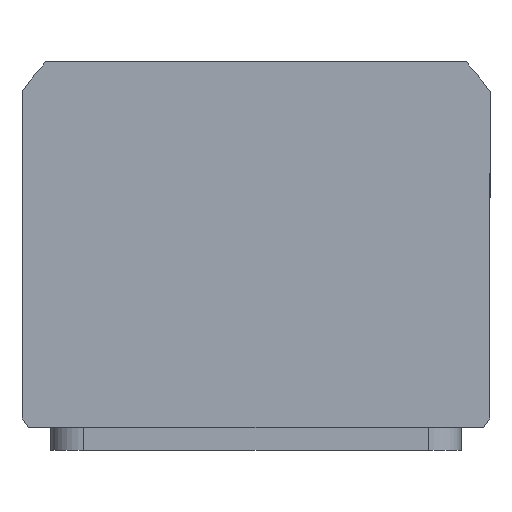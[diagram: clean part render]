
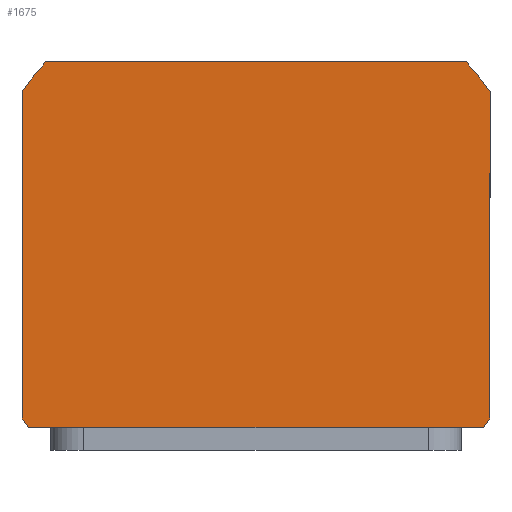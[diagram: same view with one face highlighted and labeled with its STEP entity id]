
A CAD part, top view. The second image highlights one B-rep face of the part: STEP entity #1675.
In plain terms, the highlighted planar face has unit normal (0, 0, 1) as drawn and (0, 0, -1) by its records, which use the part's own axes.
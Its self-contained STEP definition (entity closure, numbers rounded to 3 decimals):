
#240 = CARTESIAN_POINT ( 'NONE',  ( 0., 2.508, 0. ) ) ;
#357 = EDGE_CURVE ( 'NONE', #16587, #13092, #20557, .T. ) ;
#1675 = ADVANCED_FACE ( 'NONE', ( #14427 ), #10369, .F. ) ;
#2035 = DIRECTION ( 'NONE',  ( 1., 0., 0. ) ) ;
#2058 = AXIS2_PLACEMENT_3D ( 'NONE', #2424, #14806, #4223 ) ;
#2424 = CARTESIAN_POINT ( 'NONE',  ( 0., 2.508, 0. ) ) ;
#2741 = DIRECTION ( 'NONE',  ( 1., 0., 0. ) ) ;
#3754 = ORIENTED_EDGE ( 'NONE', *, *, #11947, .F. ) ;
#4040 = CARTESIAN_POINT ( 'NONE',  ( 57., 44.5, 0. ) ) ;
#4154 = LINE ( 'NONE', #20777, #14664 ) ;
#4223 = DIRECTION ( 'NONE',  ( 1., 0., 0. ) ) ;
#5056 = DIRECTION ( 'NONE',  ( -1., 0., 0. ) ) ;
#5437 = AXIS2_PLACEMENT_3D ( 'NONE', #8135, #20518, #9915 ) ;
#5619 = VERTEX_POINT ( 'NONE', #16465 ) ;
#5908 = DIRECTION ( 'NONE',  ( 0., 1., 0. ) ) ;
#6358 = EDGE_CURVE ( 'NONE', #16522, #7431, #8245, .T. ) ;
#6560 = EDGE_CURVE ( 'NONE', #19199, #16522, #15432, .T. ) ;
#6657 = VECTOR ( 'NONE', #5056, 1000. ) ;
#6817 = DIRECTION ( 'NONE',  ( 0., 0., 1. ) ) ;
#7137 = CARTESIAN_POINT ( 'NONE',  ( -57., -37.256, 0. ) ) ;
#7431 = VERTEX_POINT ( 'NONE', #22188 ) ;
#8135 = CARTESIAN_POINT ( 'NONE',  ( 0., 2.508, 0. ) ) ;
#8245 = CIRCLE ( 'NONE', #2058, 69.5 ) ;
#8270 = CARTESIAN_POINT ( 'NONE',  ( -55.38, 44.5, 0. ) ) ;
#8395 = DIRECTION ( 'NONE',  ( 0., -1., 0. ) ) ;
#8576 = CIRCLE ( 'NONE', #5437, 69.5 ) ;
#8789 = ORIENTED_EDGE ( 'NONE', *, *, #357, .F. ) ;
#9339 = EDGE_CURVE ( 'NONE', #7431, #21073, #11184, .T. ) ;
#9835 = AXIS2_PLACEMENT_3D ( 'NONE', #21474, #13063, #16161 ) ;
#9915 = DIRECTION ( 'NONE',  ( 1., 0., 0. ) ) ;
#10369 = PLANE ( 'NONE',  #21741 ) ;
#10609 = VECTOR ( 'NONE', #5908, 1000. ) ;
#10759 = CARTESIAN_POINT ( 'NONE',  ( 57., 42.273, 0. ) ) ;
#11184 = LINE ( 'NONE', #4040, #10609 ) ;
#11447 = EDGE_CURVE ( 'NONE', #5619, #16587, #13044, .T. ) ;
#11947 = EDGE_CURVE ( 'NONE', #21073, #5619, #8576, .T. ) ;
#12143 = DIRECTION ( 'NONE',  ( 1., 0., 0. ) ) ;
#12358 = ORIENTED_EDGE ( 'NONE', *, *, #22487, .F. ) ;
#12573 = CARTESIAN_POINT ( 'NONE',  ( -51.19, -44.5, 0. ) ) ;
#12639 = DIRECTION ( 'NONE',  ( 0., 0., 1. ) ) ;
#13044 = LINE ( 'NONE', #13869, #6657 ) ;
#13063 = DIRECTION ( 'NONE',  ( 0., 0., 1. ) ) ;
#13092 = VERTEX_POINT ( 'NONE', #18052 ) ;
#13869 = CARTESIAN_POINT ( 'NONE',  ( -57., 44.5, 0. ) ) ;
#13908 = ORIENTED_EDGE ( 'NONE', *, *, #6358, .F. ) ;
#14237 = ORIENTED_EDGE ( 'NONE', *, *, #6560, .F. ) ;
#14427 = FACE_OUTER_BOUND ( 'NONE', #16532, .T. ) ;
#14664 = VECTOR ( 'NONE', #8395, 1000. ) ;
#14806 = DIRECTION ( 'NONE',  ( 0., 0., 1. ) ) ;
#15313 = CARTESIAN_POINT ( 'NONE',  ( 51.19, -44.5, 0. ) ) ;
#15432 = LINE ( 'NONE', #19981, #19571 ) ;
#16161 = DIRECTION ( 'NONE',  ( 1., 0., 0. ) ) ;
#16465 = CARTESIAN_POINT ( 'NONE',  ( 55.38, 44.5, 0. ) ) ;
#16522 = VERTEX_POINT ( 'NONE', #15313 ) ;
#16532 = EDGE_LOOP ( 'NONE', ( #3754, #22298, #13908, #14237, #12358, #22575, #8789, #20347 ) ) ;
#16587 = VERTEX_POINT ( 'NONE', #8270 ) ;
#17368 = CIRCLE ( 'NONE', #18973, 69.5 ) ;
#17614 = VERTEX_POINT ( 'NONE', #7137 ) ;
#18052 = CARTESIAN_POINT ( 'NONE',  ( -57., 42.273, 0. ) ) ;
#18973 = AXIS2_PLACEMENT_3D ( 'NONE', #240, #12639, #2035 ) ;
#19178 = CARTESIAN_POINT ( 'NONE',  ( 0., 0., 0. ) ) ;
#19199 = VERTEX_POINT ( 'NONE', #12573 ) ;
#19571 = VECTOR ( 'NONE', #2741, 1000. ) ;
#19784 = EDGE_CURVE ( 'NONE', #13092, #17614, #4154, .T. ) ;
#19981 = CARTESIAN_POINT ( 'NONE',  ( -57., -44.5, 0. ) ) ;
#20347 = ORIENTED_EDGE ( 'NONE', *, *, #11447, .F. ) ;
#20518 = DIRECTION ( 'NONE',  ( 0., 0., 1. ) ) ;
#20557 = CIRCLE ( 'NONE', #9835, 69.5 ) ;
#20777 = CARTESIAN_POINT ( 'NONE',  ( -57., 44.5, 0. ) ) ;
#21073 = VERTEX_POINT ( 'NONE', #10759 ) ;
#21474 = CARTESIAN_POINT ( 'NONE',  ( 0., 2.508, 0. ) ) ;
#21741 = AXIS2_PLACEMENT_3D ( 'NONE', #19178, #6817, #12143 ) ;
#22188 = CARTESIAN_POINT ( 'NONE',  ( 57., -37.256, 0. ) ) ;
#22298 = ORIENTED_EDGE ( 'NONE', *, *, #9339, .F. ) ;
#22487 = EDGE_CURVE ( 'NONE', #17614, #19199, #17368, .T. ) ;
#22575 = ORIENTED_EDGE ( 'NONE', *, *, #19784, .F. ) ;
